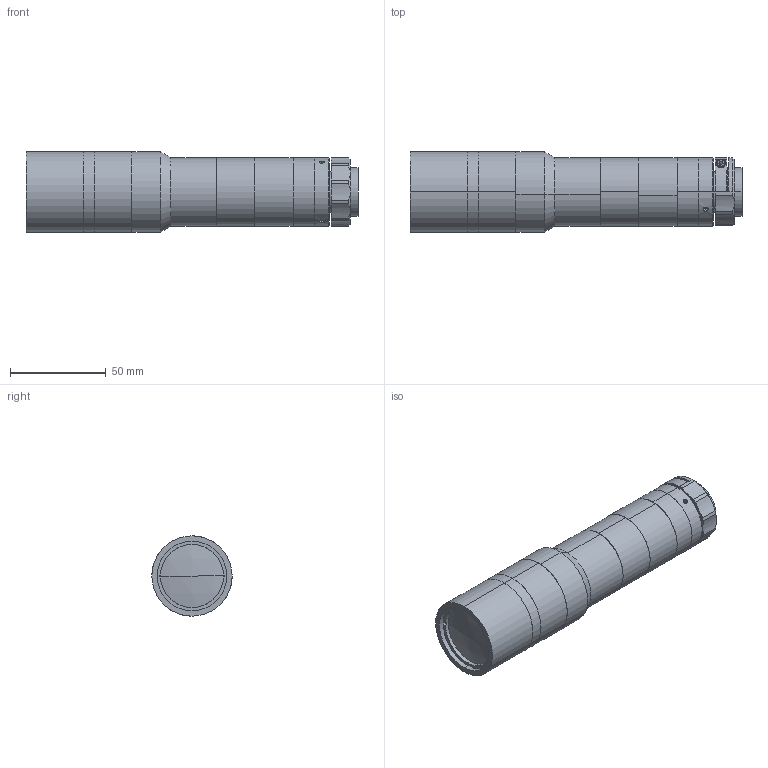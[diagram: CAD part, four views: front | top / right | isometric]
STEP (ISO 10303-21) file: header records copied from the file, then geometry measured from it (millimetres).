
FILE_DESCRIPTION (( 'STEP AP203' ), '1' );
FILE_NAME ('XF-MH01X1405.STEP', '2020-08-24T07:15:52', ( 'canrill-02' ), ( '' ), 'SwSTEP 2.0', 'SolidWorks 2014', '' );
FILE_SCHEMA (( 'CONFIG_CONTROL_DESIGN' ));
Length unit declared in the file: millimetre
Products named in the file (1): XF-MH01X1405
Bounding box: 173.72 x 42 x 42 mm (x, y, z)
Surface area: 28896.5 mm2 (no closed solid volume)
Topology: 0 solids, 14 shells, 114 faces, 306 edges, 210 vertices
Faces by surface type: cylinder 51, plane 44, cone 15, sphere 2, torus 2
Entity records: 3961 total; most frequent: CARTESIAN_POINT 950, DIRECTION 676, ORIENTED_EDGE 515, EDGE_CURVE 304, AXIS2_PLACEMENT_3D 280, VERTEX_POINT 210, CIRCLE 165, EDGE_LOOP 142
